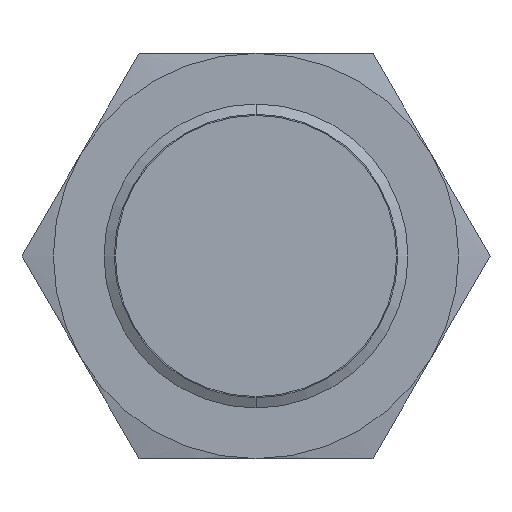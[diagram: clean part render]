
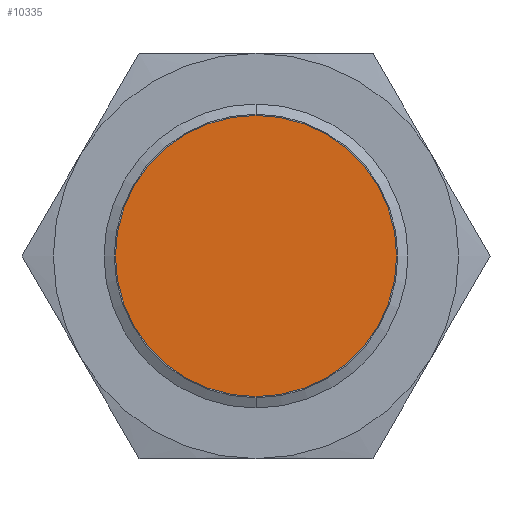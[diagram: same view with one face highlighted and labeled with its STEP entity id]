
A CAD part, left-side view. The second image highlights one B-rep face of the part: STEP entity #10335.
In plain terms, the highlighted planar face has unit normal (-1, 0, 0).
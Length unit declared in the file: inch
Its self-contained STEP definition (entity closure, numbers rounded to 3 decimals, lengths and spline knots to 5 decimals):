
#1827 = CARTESIAN_POINT ( 'NONE',  ( 0., 0., 0.3275 ) ) ;
#1902 = CIRCLE ( 'NONE', #1903, 0.3275 ) ;
#1903 = AXIS2_PLACEMENT_3D ( 'NONE', #1904, #1905, #1906 ) ;
#1904 = CARTESIAN_POINT ( 'NONE',  ( 0., 0., 0. ) ) ;
#1905 = DIRECTION ( 'NONE',  ( 1., 0., 0. ) ) ;
#1906 = DIRECTION ( 'NONE',  ( 0., 0., 1. ) ) ;
#4339 = FACE_OUTER_BOUND ( 'NONE', #10273, .T. ) ;
#4340 = PLANE ( 'NONE',  #4341 ) ;
#4341 = AXIS2_PLACEMENT_3D ( 'NONE', #4342, #4343, #4348 ) ;
#4342 = CARTESIAN_POINT ( 'NONE',  ( 0., 0., 0. ) ) ;
#4343 = DIRECTION ( 'NONE',  ( 1., 0., 0. ) ) ;
#4348 = DIRECTION ( 'NONE',  ( 0., 0., -1. ) ) ;
#4494 = CIRCLE ( 'NONE', #4495, 0.3275 ) ;
#4495 = AXIS2_PLACEMENT_3D ( 'NONE', #4496, #4497, #4498 ) ;
#4496 = CARTESIAN_POINT ( 'NONE',  ( 0., 0., 0. ) ) ;
#4497 = DIRECTION ( 'NONE',  ( 1., 0., 0. ) ) ;
#4498 = DIRECTION ( 'NONE',  ( 0., 0., 1. ) ) ;
#7602 = VERTEX_POINT ( 'NONE', #1827 ) ;
#7850 = EDGE_CURVE ( 'NONE', #12853, #7602, #1902, .T. ) ;
#8700 = CARTESIAN_POINT ( 'NONE',  ( 0., 0., -0.3275 ) ) ;
#9563 = ORIENTED_EDGE ( 'NONE', *, *, #7850, .F. ) ;
#10144 = ORIENTED_EDGE ( 'NONE', *, *, #10425, .F. ) ;
#10273 = EDGE_LOOP ( 'NONE', ( #10144, #9563 ) ) ;
#10335 = ADVANCED_FACE ( 'NONE', ( #4339 ), #4340, .F. ) ;
#10425 = EDGE_CURVE ( 'NONE', #7602, #12853, #4494, .T. ) ;
#12853 = VERTEX_POINT ( 'NONE', #8700 ) ;
